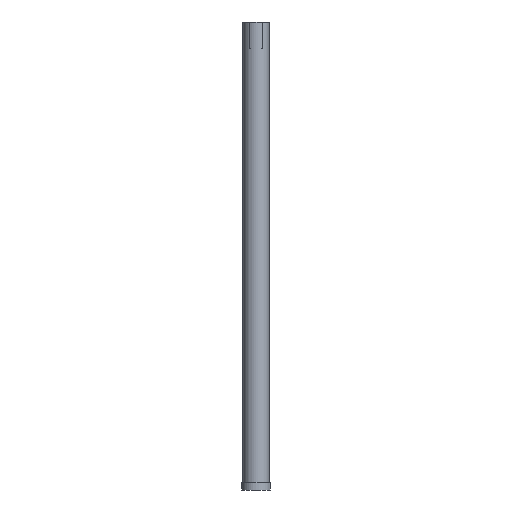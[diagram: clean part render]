
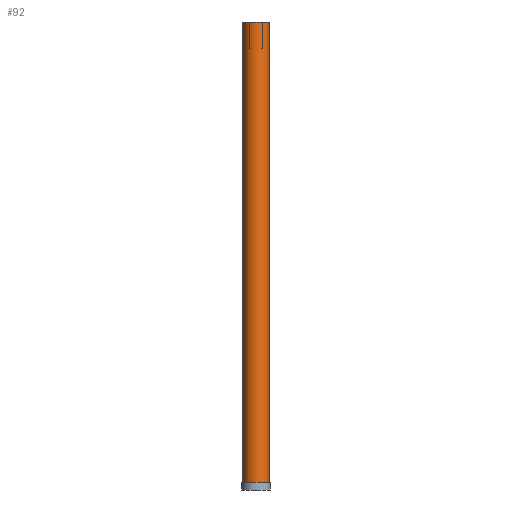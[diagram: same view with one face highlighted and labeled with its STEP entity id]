
A CAD part, left-side view. The second image highlights one B-rep face of the part: STEP entity #92.
In plain terms, the highlighted cylindrical face has radius 20 mm (diameter 40 mm), a full revolution.
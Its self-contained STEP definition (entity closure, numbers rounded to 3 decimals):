
#92 = ADVANCED_FACE( '', ( #209, #210 ), #211, .T. );
#209 = FACE_OUTER_BOUND( '', #342, .T. );
#210 = FACE_OUTER_BOUND( '', #343, .T. );
#211 = CYLINDRICAL_SURFACE( '', #344, 20. );
#342 = EDGE_LOOP( '', ( #539, #540, #541, #542 ) );
#343 = EDGE_LOOP( '', ( #543 ) );
#344 = AXIS2_PLACEMENT_3D( '', #544, #545, #546 );
#539 = ORIENTED_EDGE( '', *, *, #717, .F. );
#540 = ORIENTED_EDGE( '', *, *, #692, .F. );
#541 = ORIENTED_EDGE( '', *, *, #664, .F. );
#542 = ORIENTED_EDGE( '', *, *, #704, .F. );
#543 = ORIENTED_EDGE( '', *, *, #678, .F. );
#544 = CARTESIAN_POINT( '', ( 0., 0., 715. ) );
#545 = DIRECTION( '', ( 0., 0., 1. ) );
#546 = DIRECTION( '', ( -1., 0., 0. ) );
#664 = EDGE_CURVE( '', #763, #765, #766, .T. );
#678 = EDGE_CURVE( '', #789, #789, #790, .T. );
#692 = EDGE_CURVE( '', #765, #811, #812, .T. );
#704 = EDGE_CURVE( '', #827, #763, #829, .T. );
#717 = EDGE_CURVE( '', #811, #827, #847, .F. );
#763 = VERTEX_POINT( '', #899 );
#765 = VERTEX_POINT( '', #902 );
#766 = LINE( '', #903, #904 );
#789 = VERTEX_POINT( '', #934 );
#790 = CIRCLE( '', #935, 20. );
#811 = VERTEX_POINT( '', #961 );
#812 = CIRCLE( '', #962, 20. );
#827 = VERTEX_POINT( '', #979 );
#829 = CIRCLE( '', #982, 20. );
#847 = LINE( '', #1006, #1007 );
#899 = CARTESIAN_POINT( '', ( 17.321, -10., 715. ) );
#902 = CARTESIAN_POINT( '', ( 17.321, -10., 675. ) );
#903 = CARTESIAN_POINT( '', ( 17.321, -10., 715. ) );
#904 = VECTOR( '', #1063, 1000. );
#934 = CARTESIAN_POINT( '', ( -20., 0., 12. ) );
#935 = AXIS2_PLACEMENT_3D( '', #1080, #1081, #1082 );
#961 = CARTESIAN_POINT( '', ( 17.321, 10., 675. ) );
#962 = AXIS2_PLACEMENT_3D( '', #1100, #1101, #1102 );
#979 = CARTESIAN_POINT( '', ( 17.321, 10., 715. ) );
#982 = AXIS2_PLACEMENT_3D( '', #1118, #1119, #1120 );
#1006 = CARTESIAN_POINT( '', ( 17.321, 10., 715. ) );
#1007 = VECTOR( '', #1133, 1000. );
#1063 = DIRECTION( '', ( 0., 0., -1. ) );
#1080 = CARTESIAN_POINT( '', ( 0., 0., 12. ) );
#1081 = DIRECTION( '', ( 0., 0., -1. ) );
#1082 = DIRECTION( '', ( -1., 0., 0. ) );
#1100 = CARTESIAN_POINT( '', ( 0., 0., 675. ) );
#1101 = DIRECTION( '', ( 0., 0., 1. ) );
#1102 = DIRECTION( '', ( 1., 0., 0. ) );
#1118 = CARTESIAN_POINT( '', ( 0., 0., 715. ) );
#1119 = DIRECTION( '', ( 0., 0., 1. ) );
#1120 = DIRECTION( '', ( 1., 0., 0. ) );
#1133 = DIRECTION( '', ( 0., 0., -1. ) );
